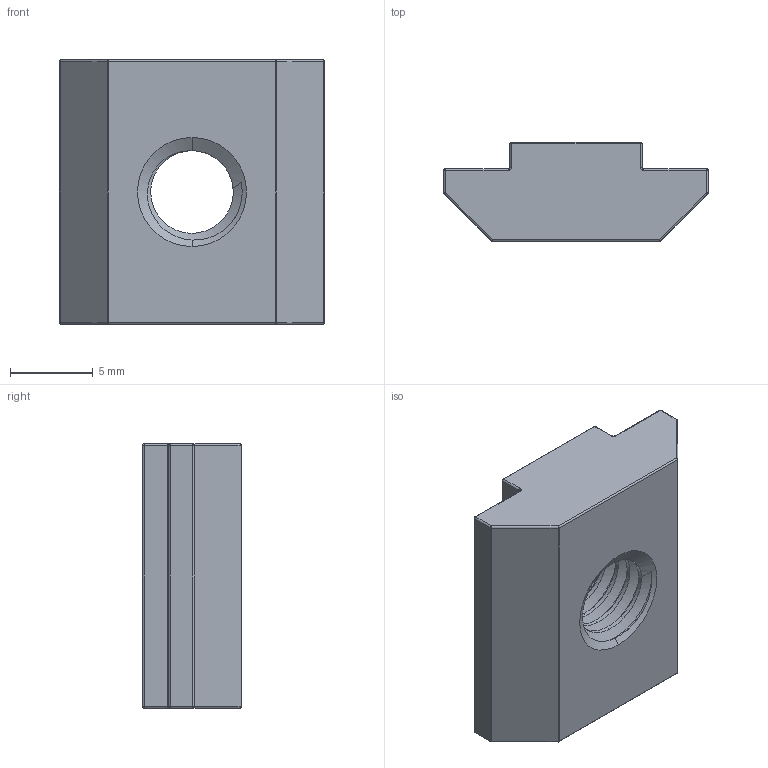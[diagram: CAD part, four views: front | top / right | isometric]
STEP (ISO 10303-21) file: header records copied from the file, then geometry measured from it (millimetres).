
FILE_DESCRIPTION (( 'STEP AP203' ), '1' );
FILE_NAME ('TANLN-AL-30-M6.STEP', '2026-08-25T07:49:04', ( '' ), ( '' ), 'SwSTEP 2.0', 'SolidWorks 2020', '' );
FILE_SCHEMA (( 'CONFIG_CONTROL_DESIGN' ));
Length unit declared in the file: millimetre
Products named in the file (1): TANLN-AL-30-M6
Bounding box: 16 x 6 x 16 mm (x, y, z)
Volume: 1050.4 mm3; surface area: 898.2 mm2
Topology: 1 solids, 1 shells, 81 faces, 192 edges, 101 vertices
Faces by surface type: cylinder 42, sphere 16, plane 12, cone 4, torus 4, bspline 3
Entity records: 3593 total; most frequent: CARTESIAN_POINT 1791, DIRECTION 375, ORIENTED_EDGE 360, EDGE_CURVE 180, AXIS2_PLACEMENT_3D 150, VERTEX_POINT 101, EDGE_LOOP 83, ADVANCED_FACE 81
